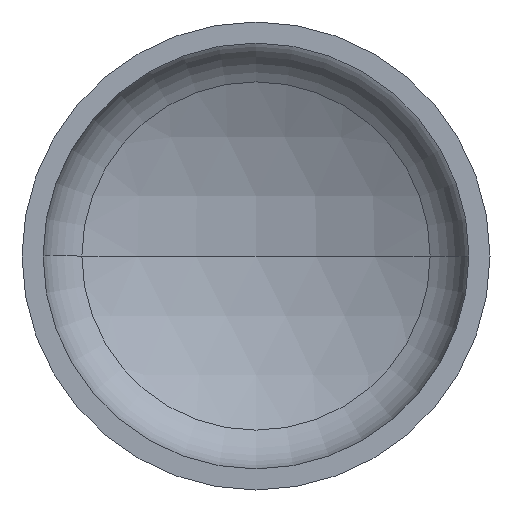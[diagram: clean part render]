
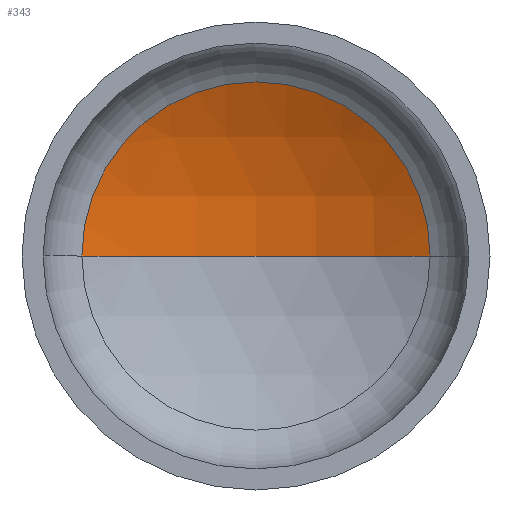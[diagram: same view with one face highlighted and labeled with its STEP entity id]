
A CAD part, front view. The second image highlights one B-rep face of the part: STEP entity #343.
In plain terms, the highlighted spherical face has radius 800 mm.
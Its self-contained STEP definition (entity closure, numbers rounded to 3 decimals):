
#3 = VERTEX_POINT ( 'NONE', #237 ) ;
#11 = EDGE_LOOP ( 'NONE', ( #70, #35, #64 ) ) ;
#26 = VERTEX_POINT ( 'NONE', #370 ) ;
#35 = ORIENTED_EDGE ( 'NONE', *, *, #117, .T. ) ;
#44 = AXIS2_PLACEMENT_3D ( 'NONE', #360, #144, #110 ) ;
#64 = ORIENTED_EDGE ( 'NONE', *, *, #267, .T. ) ;
#70 = ORIENTED_EDGE ( 'NONE', *, *, #74, .F. ) ;
#74 = EDGE_CURVE ( 'NONE', #26, #3, #105, .T. ) ;
#92 = VERTEX_POINT ( 'NONE', #214 ) ;
#105 = CIRCLE ( 'NONE', #285, 800. ) ;
#110 = DIRECTION ( 'NONE',  ( -1., 0., 0. ) ) ;
#117 = EDGE_CURVE ( 'NONE', #26, #92, #184, .T. ) ;
#133 = CARTESIAN_POINT ( 'NONE',  ( 0., 277.214, 0. ) ) ;
#136 = DIRECTION ( 'NONE',  ( 0., -1., 0. ) ) ;
#140 = DIRECTION ( 'NONE',  ( 1., 0., 0. ) ) ;
#143 = CIRCLE ( 'NONE', #294, 372.093 ) ;
#144 = DIRECTION ( 'NONE',  ( 0., 0., -1. ) ) ;
#184 = CIRCLE ( 'NONE', #342, 800. ) ;
#186 = SPHERICAL_SURFACE ( 'NONE', #44, 800. ) ;
#214 = CARTESIAN_POINT ( 'NONE',  ( 372.093, 277.214, 0. ) ) ;
#237 = CARTESIAN_POINT ( 'NONE',  ( -372.093, 277.214, 0. ) ) ;
#262 = FACE_OUTER_BOUND ( 'NONE', #11, .T. ) ;
#267 = EDGE_CURVE ( 'NONE', #92, #3, #143, .T. ) ;
#285 = AXIS2_PLACEMENT_3D ( 'NONE', #333, #329, #325 ) ;
#294 = AXIS2_PLACEMENT_3D ( 'NONE', #133, #136, #140 ) ;
#325 = DIRECTION ( 'NONE',  ( 1., 0., 0. ) ) ;
#329 = DIRECTION ( 'NONE',  ( 0., 0., 1. ) ) ;
#333 = CARTESIAN_POINT ( 'NONE',  ( 0., -430.986, 0. ) ) ;
#342 = AXIS2_PLACEMENT_3D ( 'NONE', #348, #353, #352 ) ;
#343 = ADVANCED_FACE ( 'NONE', ( #262 ), #186, .F. ) ;
#348 = CARTESIAN_POINT ( 'NONE',  ( 0., -430.986, 0. ) ) ;
#352 = DIRECTION ( 'NONE',  ( -1., 0., 0. ) ) ;
#353 = DIRECTION ( 'NONE',  ( 0., 0., -1. ) ) ;
#360 = CARTESIAN_POINT ( 'NONE',  ( 0., -430.986, 0. ) ) ;
#370 = CARTESIAN_POINT ( 'NONE',  ( 0., 369.014, 0. ) ) ;
